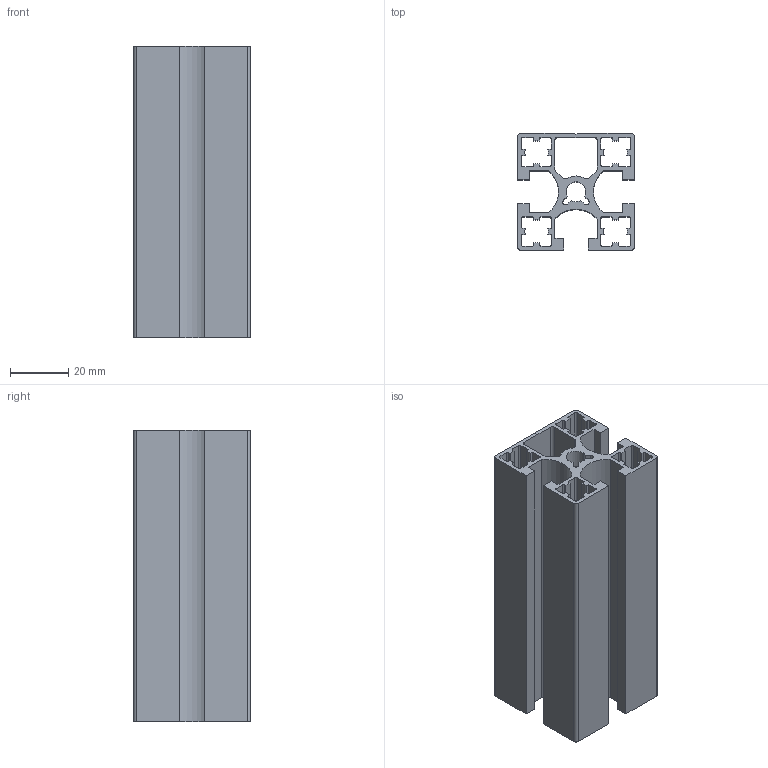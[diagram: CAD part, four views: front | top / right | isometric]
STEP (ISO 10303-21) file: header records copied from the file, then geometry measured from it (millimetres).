
FILE_DESCRIPTION (( 'STEP AP203' ), '1' );
FILE_NAME ('WS4040C1-8.STEP', '2024-02-19T03:51:05', ( '' ), ( '' ), 'SwSTEP 2.0', 'SolidWorks 2022', '' );
FILE_SCHEMA (( 'CONFIG_CONTROL_DESIGN' ));
Length unit declared in the file: millimetre
Products named in the file (1): WS4040C1-8
Bounding box: 40 x 40 x 100 mm (x, y, z)
Volume: 49361.5 mm3; surface area: 55181.2 mm2
Topology: 1 solids, 1 shells, 185 faces, 549 edges, 366 vertices
Faces by surface type: plane 105, cylinder 80
Entity records: 6324 total; most frequent: CARTESIAN_POINT 1101, ORIENTED_EDGE 1098, DIRECTION 1081, EDGE_CURVE 549, LINE 389, VECTOR 389, VERTEX_POINT 366, AXIS2_PLACEMENT_3D 346
